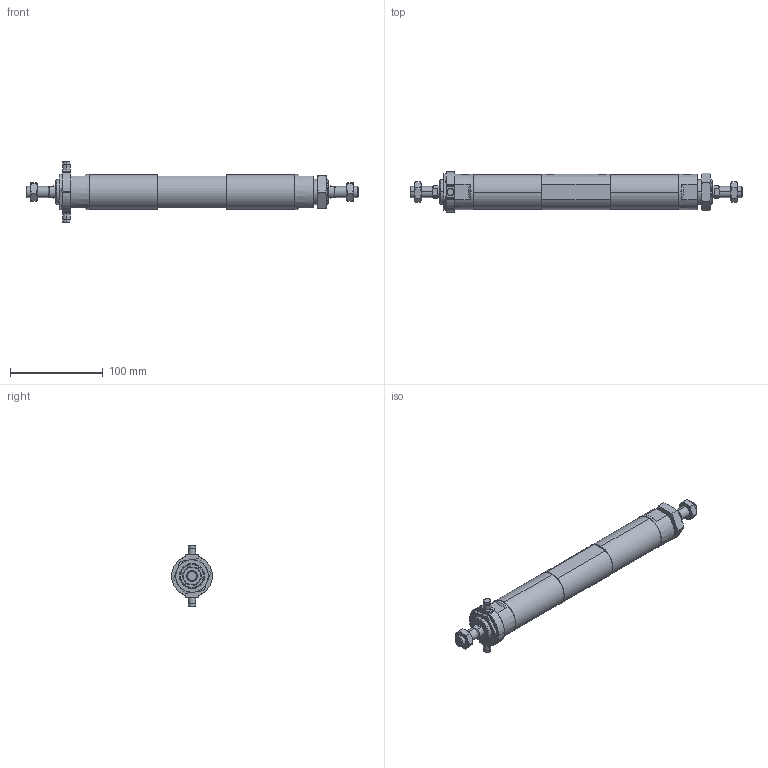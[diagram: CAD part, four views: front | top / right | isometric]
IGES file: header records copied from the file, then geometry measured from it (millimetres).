
Start section: SolidWorks IGES file using analytic representation for surfaces
Global section: file name: C:\Users\Toshiba\Desktop\JGD7-32-25-25-T.IGS; native system: SolidWorks 2014; preprocessor: SolidWorks 2014; author: Toshiba; date: 160419.152447; units: millimetre
Bounding box: 358 x 44 x 66 mm (x, y, z)
Surface area: 61084.8 mm2 (no closed solid volume)
Topology: 0 solids, 0 shells, 211 faces, 3444 edges, 3436 vertices
Faces by surface type: bspline 118, revolution 93
